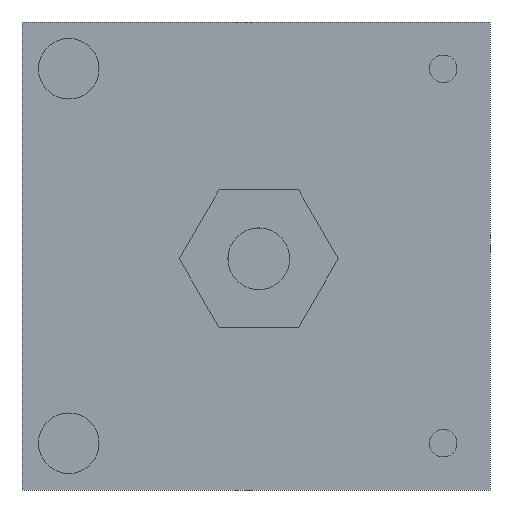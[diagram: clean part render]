
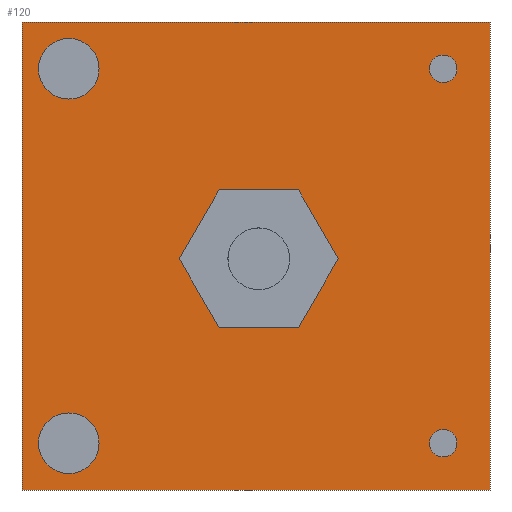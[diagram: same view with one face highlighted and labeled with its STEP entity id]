
A CAD part, front view. The second image highlights one B-rep face of the part: STEP entity #120.
In plain terms, the highlighted planar face has unit normal (0, -1, 0).
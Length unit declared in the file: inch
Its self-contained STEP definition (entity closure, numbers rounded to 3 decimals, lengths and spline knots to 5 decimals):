
#6 = VECTOR ( 'NONE', #607, 39.37008 ) ;
#11 = ORIENTED_EDGE ( 'NONE', *, *, #348, .F. ) ;
#14 = DIRECTION ( 'NONE',  ( 0., 0., -1. ) ) ;
#15 = LINE ( 'NONE', #570, #918 ) ;
#21 = DIRECTION ( 'NONE',  ( 0., 0., -1. ) ) ;
#39 = LINE ( 'NONE', #686, #198 ) ;
#43 = EDGE_CURVE ( 'NONE', #72, #599, #813, .T. ) ;
#64 = DIRECTION ( 'NONE',  ( 0., -1., 0. ) ) ;
#72 = VERTEX_POINT ( 'NONE', #154 ) ;
#74 = DIRECTION ( 'NONE',  ( 0., -1., 0. ) ) ;
#80 = CIRCLE ( 'NONE', #337, 0.056 ) ;
#84 = CARTESIAN_POINT ( 'NONE',  ( 0.34, 0., -0.34 ) ) ;
#85 = EDGE_CURVE ( 'NONE', #133, #476, #960, .T. ) ;
#88 = ORIENTED_EDGE ( 'NONE', *, *, #653, .F. ) ;
#98 = DIRECTION ( 'NONE',  ( 0., 0., -1. ) ) ;
#120 = ADVANCED_FACE ( 'NONE', ( #336, #860, #354, #569, #266, #591 ), #255, .T. ) ;
#133 = VERTEX_POINT ( 'NONE', #478 ) ;
#136 = CARTESIAN_POINT ( 'NONE',  ( -0.34, 0., 0.285 ) ) ;
#140 = CARTESIAN_POINT ( 'NONE',  ( -0.425, 0., 0.425 ) ) ;
#148 = CARTESIAN_POINT ( 'NONE',  ( 0.425, 0., -0.425 ) ) ;
#154 = CARTESIAN_POINT ( 'NONE',  ( -0.34, 0., -0.285 ) ) ;
#159 = DIRECTION ( 'NONE',  ( 0., -1., 0. ) ) ;
#164 = DIRECTION ( 'NONE',  ( 0., -1., 0. ) ) ;
#169 = LINE ( 'NONE', #140, #6 ) ;
#173 = ORIENTED_EDGE ( 'NONE', *, *, #898, .F. ) ;
#186 = AXIS2_PLACEMENT_3D ( 'NONE', #287, #283, #852 ) ;
#187 = ORIENTED_EDGE ( 'NONE', *, *, #220, .F. ) ;
#191 = VERTEX_POINT ( 'NONE', #136 ) ;
#192 = CIRCLE ( 'NONE', #186, 0.025 ) ;
#198 = VECTOR ( 'NONE', #445, 39.37008 ) ;
#201 = VERTEX_POINT ( 'NONE', #855 ) ;
#204 = EDGE_CURVE ( 'NONE', #661, #286, #39, .T. ) ;
#205 = EDGE_CURVE ( 'NONE', #286, #519, #169, .T. ) ;
#206 = VERTEX_POINT ( 'NONE', #848 ) ;
#220 = EDGE_CURVE ( 'NONE', #476, #133, #345, .T. ) ;
#234 = DIRECTION ( 'NONE',  ( 0., -1., 0. ) ) ;
#246 = ORIENTED_EDGE ( 'NONE', *, *, #205, .F. ) ;
#251 = CARTESIAN_POINT ( 'NONE',  ( 0., 0., 0. ) ) ;
#255 = PLANE ( 'NONE',  #867 ) ;
#266 = FACE_BOUND ( 'NONE', #683, .T. ) ;
#281 = CIRCLE ( 'NONE', #945, 0.025 ) ;
#283 = DIRECTION ( 'NONE',  ( 0., -1., 0. ) ) ;
#286 = VERTEX_POINT ( 'NONE', #540 ) ;
#287 = CARTESIAN_POINT ( 'NONE',  ( 0.34, 0., -0.34 ) ) ;
#292 = DIRECTION ( 'NONE',  ( 0., -1., 0. ) ) ;
#295 = CARTESIAN_POINT ( 'NONE',  ( -0.425, 0., 0.425 ) ) ;
#298 = ORIENTED_EDGE ( 'NONE', *, *, #85, .F. ) ;
#313 = ORIENTED_EDGE ( 'NONE', *, *, #450, .F. ) ;
#323 = ORIENTED_EDGE ( 'NONE', *, *, #547, .F. ) ;
#327 = DIRECTION ( 'NONE',  ( 0., 0., -1. ) ) ;
#332 = DIRECTION ( 'NONE',  ( 0., 0., -1. ) ) ;
#336 = FACE_BOUND ( 'NONE', #589, .T. ) ;
#337 = AXIS2_PLACEMENT_3D ( 'NONE', #932, #74, #951 ) ;
#345 = CIRCLE ( 'NONE', #759, 0.025 ) ;
#348 = EDGE_CURVE ( 'NONE', #633, #191, #1001, .T. ) ;
#352 = CARTESIAN_POINT ( 'NONE',  ( -0.34, 0., -0.34 ) ) ;
#354 = FACE_OUTER_BOUND ( 'NONE', #1002, .T. ) ;
#359 = CARTESIAN_POINT ( 'NONE',  ( 0.34, 0., 0.34 ) ) ;
#366 = CARTESIAN_POINT ( 'NONE',  ( -0.34, 0., 0.395 ) ) ;
#367 = LINE ( 'NONE', #832, #1004 ) ;
#370 = VERTEX_POINT ( 'NONE', #464 ) ;
#394 = ORIENTED_EDGE ( 'NONE', *, *, #204, .F. ) ;
#402 = CARTESIAN_POINT ( 'NONE',  ( 0.34, 0., 0.315 ) ) ;
#416 = CIRCLE ( 'NONE', #758, 0.055 ) ;
#422 = EDGE_CURVE ( 'NONE', #191, #633, #416, .T. ) ;
#431 = AXIS2_PLACEMENT_3D ( 'NONE', #352, #64, #1017 ) ;
#433 = DIRECTION ( 'NONE',  ( 0., 0., -1. ) ) ;
#438 = DIRECTION ( 'NONE',  ( 0., -1., 0. ) ) ;
#445 = DIRECTION ( 'NONE',  ( -1., 0., 0. ) ) ;
#450 = EDGE_CURVE ( 'NONE', #370, #661, #15, .T. ) ;
#459 = CARTESIAN_POINT ( 'NONE',  ( 0.34, 0., 0.34 ) ) ;
#460 = EDGE_LOOP ( 'NONE', ( #828, #173 ) ) ;
#464 = CARTESIAN_POINT ( 'NONE',  ( 0.425, 0., 0.425 ) ) ;
#474 = CARTESIAN_POINT ( 'NONE',  ( -0.34, 0., 0.34 ) ) ;
#476 = VERTEX_POINT ( 'NONE', #402 ) ;
#478 = CARTESIAN_POINT ( 'NONE',  ( 0.34, 0., 0.365 ) ) ;
#491 = CARTESIAN_POINT ( 'NONE',  ( -0.34, 0., -0.34 ) ) ;
#512 = AXIS2_PLACEMENT_3D ( 'NONE', #474, #159, #98 ) ;
#519 = VERTEX_POINT ( 'NONE', #295 ) ;
#535 = ORIENTED_EDGE ( 'NONE', *, *, #1009, .F. ) ;
#540 = CARTESIAN_POINT ( 'NONE',  ( -0.425, 0., -0.425 ) ) ;
#542 = EDGE_CURVE ( 'NONE', #671, #201, #281, .T. ) ;
#547 = EDGE_CURVE ( 'NONE', #206, #582, #944, .T. ) ;
#558 = CARTESIAN_POINT ( 'NONE',  ( -0.34, 0., 0.34 ) ) ;
#569 = FACE_BOUND ( 'NONE', #912, .T. ) ;
#570 = CARTESIAN_POINT ( 'NONE',  ( 0.425, 0., 0.425 ) ) ;
#582 = VERTEX_POINT ( 'NONE', #630 ) ;
#589 = EDGE_LOOP ( 'NONE', ( #298, #187 ) ) ;
#591 = FACE_BOUND ( 'NONE', #847, .T. ) ;
#592 = CIRCLE ( 'NONE', #431, 0.055 ) ;
#599 = VERTEX_POINT ( 'NONE', #640 ) ;
#607 = DIRECTION ( 'NONE',  ( 0., 0., 1. ) ) ;
#611 = ORIENTED_EDGE ( 'NONE', *, *, #542, .F. ) ;
#613 = CARTESIAN_POINT ( 'NONE',  ( 0.34, 0., -0.365 ) ) ;
#615 = DIRECTION ( 'NONE',  ( 0., 0., -1. ) ) ;
#621 = CARTESIAN_POINT ( 'NONE',  ( 0.005, 0., -0.005 ) ) ;
#630 = CARTESIAN_POINT ( 'NONE',  ( 0.005, 0., -0.061 ) ) ;
#633 = VERTEX_POINT ( 'NONE', #366 ) ;
#640 = CARTESIAN_POINT ( 'NONE',  ( -0.34, 0., -0.395 ) ) ;
#653 = EDGE_CURVE ( 'NONE', #582, #206, #80, .T. ) ;
#661 = VERTEX_POINT ( 'NONE', #148 ) ;
#662 = EDGE_CURVE ( 'NONE', #201, #671, #192, .T. ) ;
#671 = VERTEX_POINT ( 'NONE', #613 ) ;
#683 = EDGE_LOOP ( 'NONE', ( #753, #611 ) ) ;
#686 = CARTESIAN_POINT ( 'NONE',  ( -0.425, 0., -0.425 ) ) ;
#691 = ORIENTED_EDGE ( 'NONE', *, *, #422, .F. ) ;
#753 = ORIENTED_EDGE ( 'NONE', *, *, #662, .F. ) ;
#758 = AXIS2_PLACEMENT_3D ( 'NONE', #558, #164, #805 ) ;
#759 = AXIS2_PLACEMENT_3D ( 'NONE', #359, #438, #433 ) ;
#805 = DIRECTION ( 'NONE',  ( 0., 0., -1. ) ) ;
#811 = DIRECTION ( 'NONE',  ( 0., -1., 0. ) ) ;
#813 = CIRCLE ( 'NONE', #829, 0.055 ) ;
#828 = ORIENTED_EDGE ( 'NONE', *, *, #43, .F. ) ;
#829 = AXIS2_PLACEMENT_3D ( 'NONE', #491, #234, #21 ) ;
#830 = AXIS2_PLACEMENT_3D ( 'NONE', #621, #868, #955 ) ;
#832 = CARTESIAN_POINT ( 'NONE',  ( -0.425, 0., 0.425 ) ) ;
#847 = EDGE_LOOP ( 'NONE', ( #11, #691 ) ) ;
#848 = CARTESIAN_POINT ( 'NONE',  ( 0.005, 0., 0.051 ) ) ;
#852 = DIRECTION ( 'NONE',  ( 0., 0., -1. ) ) ;
#855 = CARTESIAN_POINT ( 'NONE',  ( 0.34, 0., -0.315 ) ) ;
#860 = FACE_BOUND ( 'NONE', #460, .T. ) ;
#867 = AXIS2_PLACEMENT_3D ( 'NONE', #251, #811, #332 ) ;
#868 = DIRECTION ( 'NONE',  ( 0., -1., 0. ) ) ;
#898 = EDGE_CURVE ( 'NONE', #599, #72, #592, .T. ) ;
#912 = EDGE_LOOP ( 'NONE', ( #323, #88 ) ) ;
#917 = DIRECTION ( 'NONE',  ( 1., 0., 0. ) ) ;
#918 = VECTOR ( 'NONE', #327, 39.37008 ) ;
#932 = CARTESIAN_POINT ( 'NONE',  ( 0.005, 0., -0.005 ) ) ;
#943 = AXIS2_PLACEMENT_3D ( 'NONE', #459, #953, #14 ) ;
#944 = CIRCLE ( 'NONE', #830, 0.056 ) ;
#945 = AXIS2_PLACEMENT_3D ( 'NONE', #84, #292, #615 ) ;
#951 = DIRECTION ( 'NONE',  ( 0., 0., -1. ) ) ;
#953 = DIRECTION ( 'NONE',  ( 0., -1., 0. ) ) ;
#955 = DIRECTION ( 'NONE',  ( 0., 0., -1. ) ) ;
#960 = CIRCLE ( 'NONE', #943, 0.025 ) ;
#1001 = CIRCLE ( 'NONE', #512, 0.055 ) ;
#1002 = EDGE_LOOP ( 'NONE', ( #313, #535, #246, #394 ) ) ;
#1004 = VECTOR ( 'NONE', #917, 39.37008 ) ;
#1009 = EDGE_CURVE ( 'NONE', #519, #370, #367, .T. ) ;
#1017 = DIRECTION ( 'NONE',  ( 0., 0., -1. ) ) ;
